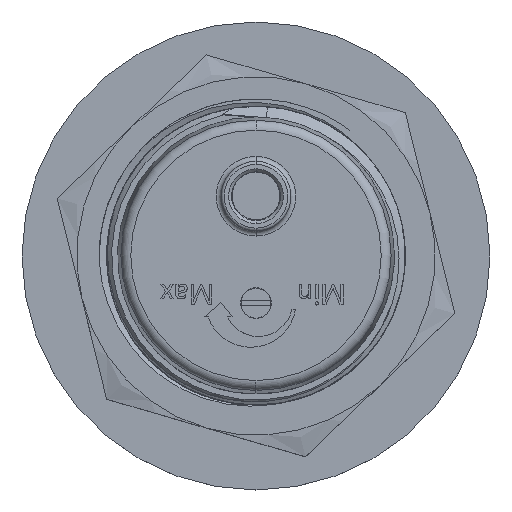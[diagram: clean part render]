
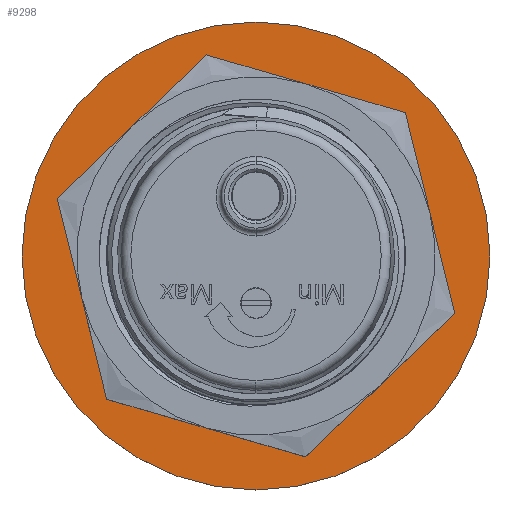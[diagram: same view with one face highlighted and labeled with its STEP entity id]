
A CAD part, top view. The second image highlights one B-rep face of the part: STEP entity #9298.
In plain terms, the highlighted planar face has unit normal (0, 0, 1).
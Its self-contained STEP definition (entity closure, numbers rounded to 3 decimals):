
#258 = VERTEX_POINT ( 'NONE', #12615 ) ;
#3129 = CARTESIAN_POINT ( 'NONE',  ( -9.115, -49.527, 33.323 ) ) ;
#5030 = DIRECTION ( 'NONE',  ( 0., 0., 1. ) ) ;
#5107 = EDGE_CURVE ( 'NONE', #20558, #258, #21455, .T. ) ;
#5199 = EDGE_LOOP ( 'NONE', ( #25723, #23836 ) ) ;
#5648 = PLANE ( 'NONE',  #14891 ) ;
#5952 = DIRECTION ( 'NONE',  ( 0., 0., 1. ) ) ;
#8091 = CARTESIAN_POINT ( 'NONE',  ( -9.115, -49.527, 33.323 ) ) ;
#8249 = AXIS2_PLACEMENT_3D ( 'NONE', #3129, #10310, #8471 ) ;
#8471 = DIRECTION ( 'NONE',  ( 1., 0., 0. ) ) ;
#9298 = ADVANCED_FACE ( 'NONE', ( #24189, #10543 ), #5648, .T. ) ;
#9359 = ORIENTED_EDGE ( 'NONE', *, *, #12722, .F. ) ;
#9558 = AXIS2_PLACEMENT_3D ( 'NONE', #18529, #18833, #20828 ) ;
#10310 = DIRECTION ( 'NONE',  ( 0., 0., 1. ) ) ;
#10543 = FACE_BOUND ( 'NONE', #11664, .T. ) ;
#11170 = CARTESIAN_POINT ( 'NONE',  ( 14.385, -49.527, 33.323 ) ) ;
#11627 = CARTESIAN_POINT ( 'NONE',  ( -9.115, -49.527, 33.323 ) ) ;
#11664 = EDGE_LOOP ( 'NONE', ( #9359, #17844 ) ) ;
#12615 = CARTESIAN_POINT ( 'NONE',  ( -32.615, -49.527, 33.323 ) ) ;
#12722 = EDGE_CURVE ( 'NONE', #17052, #22892, #18366, .T. ) ;
#14891 = AXIS2_PLACEMENT_3D ( 'NONE', #8091, #5952, #19441 ) ;
#15775 = AXIS2_PLACEMENT_3D ( 'NONE', #19661, #26883, #26417 ) ;
#16187 = CARTESIAN_POINT ( 'NONE',  ( 8.385, -49.527, 33.323 ) ) ;
#17052 = VERTEX_POINT ( 'NONE', #19681 ) ;
#17717 = CIRCLE ( 'NONE', #15775, 17.5 ) ;
#17844 = ORIENTED_EDGE ( 'NONE', *, *, #19590, .F. ) ;
#18366 = CIRCLE ( 'NONE', #9558, 17.5 ) ;
#18529 = CARTESIAN_POINT ( 'NONE',  ( -9.115, -49.527, 33.323 ) ) ;
#18833 = DIRECTION ( 'NONE',  ( 0., 0., 1. ) ) ;
#19398 = AXIS2_PLACEMENT_3D ( 'NONE', #11627, #5030, #20963 ) ;
#19441 = DIRECTION ( 'NONE',  ( 1., 0., 0. ) ) ;
#19590 = EDGE_CURVE ( 'NONE', #22892, #17052, #17717, .T. ) ;
#19661 = CARTESIAN_POINT ( 'NONE',  ( -9.115, -49.527, 33.323 ) ) ;
#19681 = CARTESIAN_POINT ( 'NONE',  ( -26.615, -49.527, 33.323 ) ) ;
#20558 = VERTEX_POINT ( 'NONE', #11170 ) ;
#20828 = DIRECTION ( 'NONE',  ( 1., 0., 0. ) ) ;
#20963 = DIRECTION ( 'NONE',  ( 1., 0., 0. ) ) ;
#21455 = CIRCLE ( 'NONE', #8249, 23.5 ) ;
#21539 = EDGE_CURVE ( 'NONE', #258, #20558, #27244, .T. ) ;
#22892 = VERTEX_POINT ( 'NONE', #16187 ) ;
#23836 = ORIENTED_EDGE ( 'NONE', *, *, #5107, .T. ) ;
#24189 = FACE_OUTER_BOUND ( 'NONE', #5199, .T. ) ;
#25723 = ORIENTED_EDGE ( 'NONE', *, *, #21539, .T. ) ;
#26417 = DIRECTION ( 'NONE',  ( 1., 0., 0. ) ) ;
#26883 = DIRECTION ( 'NONE',  ( 0., 0., 1. ) ) ;
#27244 = CIRCLE ( 'NONE', #19398, 23.5 ) ;
